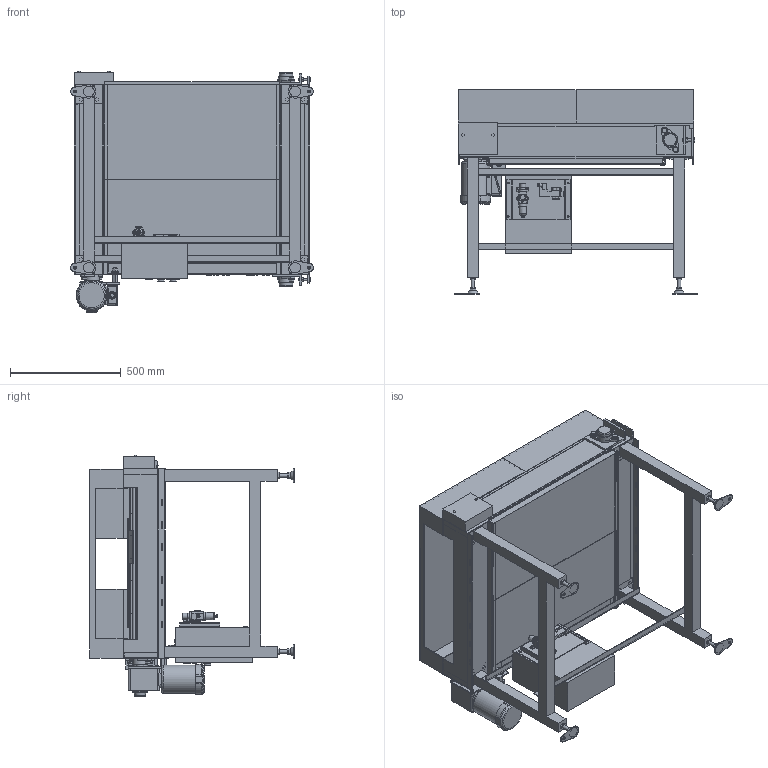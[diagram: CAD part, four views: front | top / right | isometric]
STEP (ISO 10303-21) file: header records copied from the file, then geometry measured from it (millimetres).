
FILE_DESCRIPTION( (''), '2;1');
FILE_NAME ('WEB-SLS-H-340-4-150-150-R-IVH-7.5.stp','2025-11-20T11:35:43',(''),(''),'spGate 20.6.2 (****-****-****-****)','','');
FILE_SCHEMA (('AUTOMOTIVE_DESIGN'));
Length unit declared in the file: millimetre
Products named in the file (92): WEB-SLS-H-340-4-150-150-R-IVH-7.5; TEMP_X_T-prt0; TEMP_X_T-prt1; TEMP_X_T-prt2; TEMP_X_T-prt3; TEMP_X_T-prt4; TEMP_X_T-prt5; TEMP_X_T-prt6; TEMP_X_T-prt7; TEMP_X_T-prt8; TEMP_X_T-prt9; TEMP_X_T-prt10; TEMP_X_T-prt11; TEMP_X_T-prt12; TEMP_X_T-prt13; TEMP_X_T-prt14; TEMP_X_T-prt15; TEMP_X_T-prt16; TEMP_X_T-prt17; TEMP_X_T-prt18; TEMP_X_T-prt19; TEMP_X_T-prt20; TEMP_X_T-prt21; TEMP_X_T-prt22; TEMP_X_T-prt23; TEMP_X_T-prt24; TEMP_X_T-prt25; TEMP_X_T-prt26; TEMP_X_T-prt27; TEMP_X_T-prt28; TEMP_X_T-prt29; TEMP_X_T-prt30; TEMP_X_T-prt31; TEMP_X_T-prt32; TEMP_X_T-prt33; TEMP_X_T-prt34; TEMP_X_T-prt35; TEMP_X_T-prt36; TEMP_X_T-prt37; TEMP_X_T-prt38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
Assembly tree (91 placements, depth 2):
  WEB-SLS-H-340-4-150-150-R-IVH-7.5
    TEMP_X_T-prt0
    TEMP_X_T-prt1
    TEMP_X_T-prt2
    TEMP_X_T-prt3
    TEMP_X_T-prt4
    TEMP_X_T-prt5
    TEMP_X_T-prt6
    TEMP_X_T-prt7
    TEMP_X_T-prt8
    TEMP_X_T-prt9
    TEMP_X_T-prt10
    TEMP_X_T-prt11
    TEMP_X_T-prt12
    TEMP_X_T-prt13
    TEMP_X_T-prt14
    TEMP_X_T-prt15
    TEMP_X_T-prt16
    TEMP_X_T-prt17
    TEMP_X_T-prt18
    TEMP_X_T-prt19
    TEMP_X_T-prt20
    TEMP_X_T-prt21
    TEMP_X_T-prt22
    TEMP_X_T-prt23
    TEMP_X_T-prt24
    TEMP_X_T-prt25
    TEMP_X_T-prt26
    TEMP_X_T-prt27
    TEMP_X_T-prt28
    TEMP_X_T-prt29
    TEMP_X_T-prt30
    TEMP_X_T-prt31
    TEMP_X_T-prt32
    TEMP_X_T-prt33
    TEMP_X_T-prt34
    TEMP_X_T-prt35
    TEMP_X_T-prt36
    TEMP_X_T-prt37
    TEMP_X_T-prt38
    TEMP_X_T-prt39
    TEMP_X_T-prt40
    TEMP_X_T-prt41
    TEMP_X_T-prt42
    TEMP_X_T-prt43
    TEMP_X_T-prt44
    TEMP_X_T-prt45
    TEMP_X_T-prt46
    TEMP_X_T-prt47
    TEMP_X_T-prt48
    TEMP_X_T-prt49
    TEMP_X_T-prt50
    TEMP_X_T-prt51
    TEMP_X_T-prt52
    TEMP_X_T-prt53
    TEMP_X_T-prt54
    TEMP_X_T-prt55
    TEMP_X_T-prt56
    TEMP_X_T-prt57
    TEMP_X_T-prt58
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Bounding box: 1094 x 920.6 x 1089.5 mm (x, y, z)
Volume: 70160032.6 mm3; surface area: 12433109.5 mm2
Topology: 91 solids, 91 shells, 2855 faces, 7790 edges, 4956 vertices
Faces by surface type: plane 2120, cylinder 562, bspline 169, sphere 4
Full cylindrical faces by diameter (mm): 2.459 x2, 3.2 x4, 4.386 x2, 6 x3, 6.5 x2, 6.8 x3, 7 x4, 7.9 x4, 8 x6, 8.376 x4, 8.5 x8, 9 x1, 9.7 x3, 9.9 x1, 10 x1, 10.5 x4, 11 x6, 11.8 x4, 12 x2, 12.3 x1, 13 x8, 13.8 x1, 14 x10, 15 x1, 15.4 x1, 16 x16, 18 x1, 19 x2, 20 x1, 21 x6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
Entity records: 156818 total; most frequent: CARTESIAN_POINT 20390, ORIENTED_EDGE 15568, DIRECTION 14647, COLOUR_RGB 10730, PRESENTATION_STYLE_ASSIGNMENT 10730, STYLED_ITEM 10730, EDGE_CURVE 7784, DRAUGHTING_PRE_DEFINED_CURVE_FONT 7784
